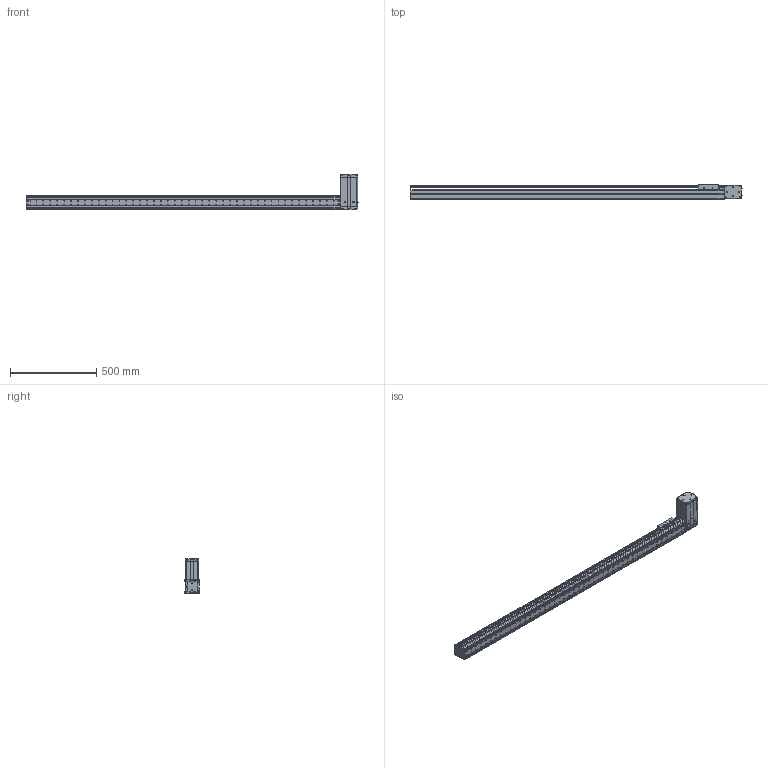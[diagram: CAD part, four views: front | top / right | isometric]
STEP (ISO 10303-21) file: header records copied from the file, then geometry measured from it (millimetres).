
FILE_DESCRIPTION((''),'2;1');
FILE_NAME('BE10_-BR-M_N-G0_IGS_PRT','2017-06-18T',(' '),(''),'PRO/ENGINEER BY PARAMETRIC TECHNOLOGY CORPORATION, 2015030','PRO/ENGINEER BY PARAMETRIC TECHNOLOGY CORPORATION, 2015030','');
FILE_SCHEMA(('CONFIG_CONTROL_DESIGN'));
Products named in the file (1): BE10_-BR-M_N-G0_IGS_PRT
Bounding box: 1920.8 x 85 x 200.22 mm (x, y, z)
Volume: 2640370.6 mm3; surface area: 1785726.6 mm2
Topology: 2 solids, 177 shells, 2342 faces, 6406 edges, 4251 vertices
Faces by surface type: cylinder 1096, plane 1083, cone 107, sphere 28, torus 25, bspline 3
Entity records: 76636 total; most frequent: CARTESIAN_POINT 15784, DIRECTION 12956, ORIENTED_EDGE 12060, EDGE_CURVE 6344, AXIS2_PLACEMENT_3D 4736, VERTEX_POINT 4251, VECTOR 3484, LINE 3484
